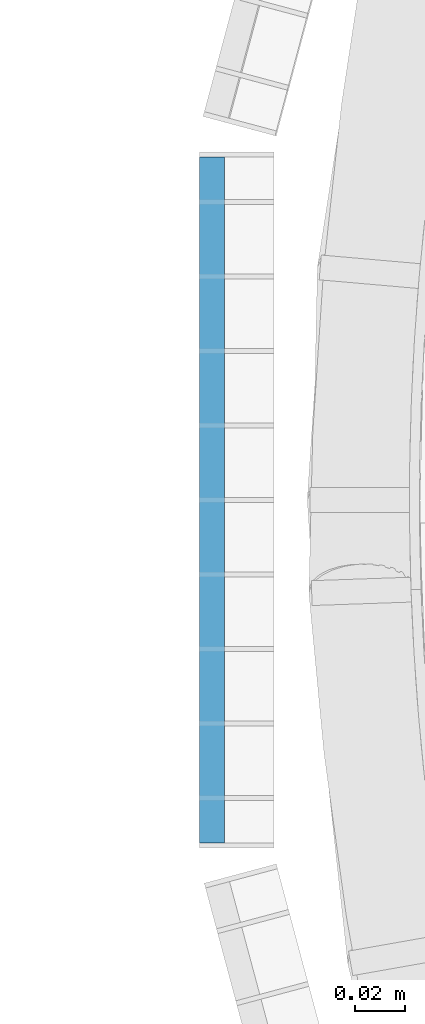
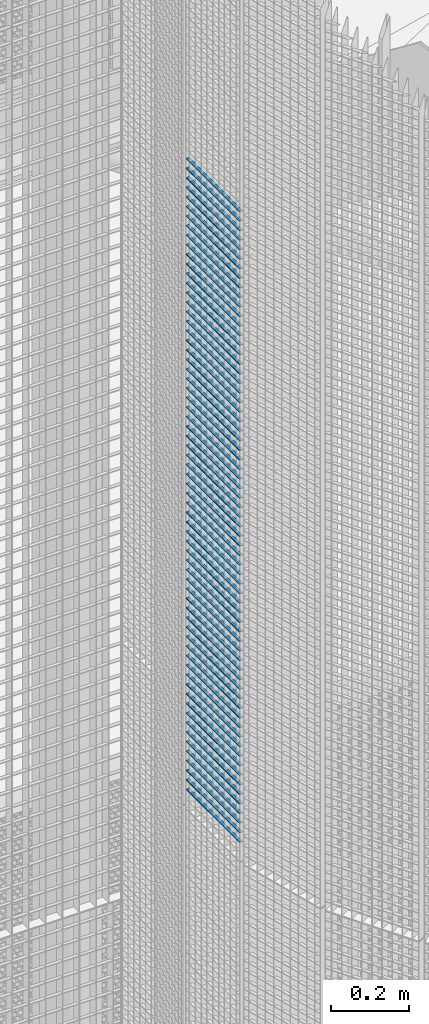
# One storey, part 189 of 1148: 67 beams, 1 element without a shape of its own.
"""IFC2X3 building model written with IfcOpenShell, lengths in millimetres."""

import ifcopenshell
import ifcopenshell.guid

model = None  # the IFC model being written
_history = None  # IfcOwnerHistory: only IFC2X3 demands one
_inside = {}  # id of a spatial element -> (the spatial element, [elements in it])
_under = {}  # id of a project, library or spatial element -> (it, [spatial elements below it])
_declared = {}  # id of a project -> (the project, [libraries it declares])
_typed = {}  # id of a type object -> (the type object, [elements of that type])
_made_of = {}  # id of a material, layer set ... -> (it, [elements and type objects made of it])


def new_model(schema):
    """Start an empty IFC model of exactly this schema.

    Asked for "IFC4X3", IfcOpenShell would pick the latest addendum, in which some entities
    have other attributes; the version numbers below select the first issue.
    IFC2X3 requires an IfcOwnerHistory on every rooted entity: one is made here for all.
    """
    global model, _history
    if schema == "IFC4X3":
        model = ifcopenshell.file(schema_version=(4, 3, 0, 0))
    else:
        model = ifcopenshell.file(schema=schema)
    _inside.clear()
    _under.clear()
    _declared.clear()
    _typed.clear()
    _made_of.clear()
    _history = None
    if model.schema == "IFC2X3":
        org = make("IfcOrganization", Name="unknown")
        user = make(
            "IfcPersonAndOrganization",
            ThePerson=make("IfcPerson", FamilyName="unknown"),
            TheOrganization=org,
        )
        app = make(
            "IfcApplication",
            ApplicationDeveloper=org,
            Version="unknown",
            ApplicationFullName="unknown",
            ApplicationIdentifier="unknown",
        )
        _history = make(
            "IfcOwnerHistory",
            OwningUser=user,
            OwningApplication=app,
            ChangeAction="ADDED",
            CreationDate=0,
        )
    return model


def make(cls, **values):
    """One entity of the class cls with the attributes given. An attribute that is None is left unset."""
    return model.create_entity(
        cls, **{name: value for name, value in values.items() if value is not None}
    )


def rooted(cls, **values):
    """An entity with a GlobalId (a new one), such as an element, a storey or a relation."""
    return make(cls, GlobalId=ifcopenshell.guid.new(), OwnerHistory=_history, **values)


def si_unit(unit_type, name, prefix=None):
    """IfcSIUnit, for example si_unit("LENGTHUNIT", "METRE", prefix="MILLI")."""
    return make("IfcSIUnit", UnitType=unit_type, Prefix=prefix, Name=name)


def assignment(units):
    """IfcUnitAssignment: the units of a project."""
    return None if units is None else make("IfcUnitAssignment", Units=units)


def point(xyz):
    """IfcCartesianPoint."""
    return None if xyz is None else make("IfcCartesianPoint", Coordinates=xyz)


def direction(xyz):
    """IfcDirection."""
    return None if xyz is None else make("IfcDirection", DirectionRatios=xyz)


def frame(location, z_axis=None, x_axis=None):
    """IfcAxis2Placement3D, a coordinate frame: its origin and axes. An axis left out is left unset."""
    return make(
        "IfcAxis2Placement3D",
        Location=point(location),
        Axis=direction(z_axis),
        RefDirection=direction(x_axis),
    )


def frame_2d(location, x_axis=None):
    """IfcAxis2Placement2D, a coordinate frame in the plane: its origin and x axis."""
    return make(
        "IfcAxis2Placement2D", Location=point(location), RefDirection=direction(x_axis)
    )


def origin_with_axes():
    """The frame at (0, 0, 0) with the z axis (0, 0, 1) and the x axis (1, 0, 0) written out."""
    return frame((0.0, 0.0, 0.0), z_axis=(0.0, 0.0, 1.0), x_axis=(1.0, 0.0, 0.0))


def origin_2d_with_axis():
    """The frame at (0, 0) in the plane with the x axis (1, 0) written out."""
    return frame_2d((0.0, 0.0), x_axis=(1.0, 0.0))


def place(relative_to, where):
    """IfcLocalPlacement: puts the frame where relative to a parent placement (None: the world)."""
    return make(
        "IfcLocalPlacement", PlacementRelTo=relative_to, RelativePlacement=where
    )


def context(
    kind, dimensions, precision=None, world=None, true_north=None, identifier=None
):
    """IfcGeometricRepresentationContext, for example the 3D "Model" context."""
    return make(
        "IfcGeometricRepresentationContext",
        ContextIdentifier=identifier,
        ContextType=kind,
        CoordinateSpaceDimension=dimensions,
        Precision=precision,
        WorldCoordinateSystem=world,
        TrueNorth=true_north,
    )


def subcontext(parent, identifier, kind, view, scale=None):
    """IfcGeometricRepresentationSubContext, for example "Body" below "Model"."""
    return make(
        "IfcGeometricRepresentationSubContext",
        ContextIdentifier=identifier,
        ContextType=kind,
        ParentContext=parent,
        TargetScale=scale,
        TargetView=view,
    )


def project(units=None, contexts=None):
    """IfcProject with its units and contexts."""
    return rooted(
        "IfcProject",
        Name="project",
        RepresentationContexts=contexts,
        UnitsInContext=assignment(units),
    )


def spatial(cls, under=None, at=None, **own):
    """A site, building, storey or space (cls), placed at a placement, below another one or the project."""
    s = rooted(cls, ObjectPlacement=at, **own)
    if under is not None:
        _under.setdefault(under.id(), (under, []))[1].append(s)
    return s


def profile(cls, at=None, kind="AREA", **sizes):
    """A parametric profile (cls). Its sizes go by their IFC names, for example OverallWidth=200.0."""
    return make(cls, ProfileType=kind, Position=at, **sizes)


def rectangle(**sizes):
    """IfcRectangleProfileDef."""
    return profile("IfcRectangleProfileDef", **sizes)


def extrude(swept, where, along, depth):
    """IfcExtrudedAreaSolid: the profile swept, set in the frame where, extruded along a direction by depth."""
    return make(
        "IfcExtrudedAreaSolid",
        SweptArea=swept,
        Position=where,
        ExtrudedDirection=direction(along),
        Depth=depth,
    )


def shape(context_of_items, identifier, shape_type, items):
    """IfcShapeRepresentation: the items that make up one representation, for example the "Body"."""
    return make(
        "IfcShapeRepresentation",
        ContextOfItems=context_of_items,
        RepresentationIdentifier=identifier,
        RepresentationType=shape_type,
        Items=items,
    )


def material(Name=None, Category=None):
    """IfcMaterial."""
    return make("IfcMaterial", Name=Name, Category=Category)


def made_of(thing, what):
    """Note that an element or type object is made of a material, layer set ...; save() writes the relation."""
    if what is not None:
        _made_of.setdefault(what.id(), (what, []))[1].append(thing)
    return thing


def type_object(cls, material=None, **own):
    """A type object (cls), such as IfcWallType, which elements share."""
    return made_of(rooted(cls, **own), material)


def element(
    cls,
    number,
    at=None,
    inside=None,
    cuts=None,
    type_object=None,
    material=None,
    context=None,
    identifier="Body",
    shape_type=None,
    held_by="IfcProductDefinitionShape",
    body=None,
    shapes=None,
    **own,
):
    """One element of the class cls, such as IfcWall. Its Tag is "e" and its number.

    at: its placement. inside: the storey or other place that contains it. cuts: it is an
    opening in that element (IfcRelVoidsElement). A single representation is given by context,
    identifier, shape_type and body (its items); several are given by shapes. held_by: the class
    of the entity that holds the representations. save() writes the other relations.
    """
    e = rooted(cls, Tag="e%d" % number, ObjectPlacement=at, **own)
    if body is not None:
        shapes = [shape(context, identifier, shape_type, body)]
    if shapes is not None:
        e.Representation = make(held_by, Representations=shapes)
    if inside is not None:
        _inside.setdefault(inside.id(), (inside, []))[1].append(e)
    if cuts is not None:
        rooted(
            "IfcRelVoidsElement", RelatingBuildingElement=cuts, RelatedOpeningElement=e
        )
    if type_object is not None:
        _typed.setdefault(type_object.id(), (type_object, []))[1].append(e)
    return made_of(e, material)


def aggregate(whole, parts):
    """IfcRelAggregates: a whole, such as a stair, and the parts it consists of."""
    return rooted("IfcRelAggregates", RelatingObject=whole, RelatedObjects=parts)


def save(model, path):
    """Write the relations noted so far, then the file.

    IfcRelAggregates (storeys below a building ...), IfcRelContainedInSpatialStructure (elements
    in a storey), IfcRelDefinesByType, IfcRelAssociatesMaterial and IfcRelDeclares: one each for
    every whole, place, type object, material and project.
    """
    for whole, parts in _under.values():
        aggregate(whole, parts)
    for where, things in _inside.values():
        rooted(
            "IfcRelContainedInSpatialStructure",
            RelatedElements=things,
            RelatingStructure=where,
        )
    for kind, things in _typed.values():
        rooted("IfcRelDefinesByType", RelatedObjects=things, RelatingType=kind)
    for what, things in _made_of.values():
        rooted("IfcRelAssociatesMaterial", RelatedObjects=things, RelatingMaterial=what)
    for by, libraries in _declared.values():
        rooted("IfcRelDeclares", RelatingContext=by, RelatedDefinitions=libraries)
    model.write(path)


model = new_model("IFC2X3")

# Units and contexts
model_context = context("Model", 3, precision=1e-05, world=origin_with_axes())
body_context = subcontext(model_context, "Body", "Model", "MODEL_VIEW")
ifc_project = project(units=[si_unit("LENGTHUNIT", "METRE", prefix="MILLI"), si_unit("AREAUNIT", "SQUARE_METRE"), si_unit("VOLUMEUNIT", "CUBIC_METRE"), si_unit("MASSUNIT", "GRAM", prefix="KILO"), si_unit("TIMEUNIT", "SECOND"), si_unit("PLANEANGLEUNIT", "RADIAN"), si_unit("SOLIDANGLEUNIT", "STERADIAN"), si_unit("THERMODYNAMICTEMPERATUREUNIT", "DEGREE_CELSIUS"), si_unit("LUMINOUSINTENSITYUNIT", "LUMEN")], contexts=[model_context])

# Site, building, storey
site_placement = place(None, origin_with_axes())
site = spatial("IfcSite", under=ifc_project, at=site_placement, Name="Undefined", CompositionType="ELEMENT")
building_placement = place(site_placement, origin_with_axes())
building = spatial("IfcBuilding", under=site, at=building_placement, Name="Undefined", CompositionType="ELEMENT")
storey_placement = place(building_placement, origin_with_axes())
storey = spatial("IfcBuildingStorey", under=building, at=storey_placement, Name="Undefined", CompositionType="ELEMENT", Elevation=0.0)

# Assembly, beams
assembly_placement = place(storey_placement, origin_with_axes())
assembly = element("IfcElementAssembly", 1, at=assembly_placement, inside=storey, Name="BORDURE", AssemblyPlace="NOTDEFINED", PredefinedType="NOTDEFINED")
ifc_material = material(Name="STEEL/S235JR")
beam_type = type_object("IfcBeamType", Name="PL2*10", PredefinedType="NOTDEFINED")
beam_1_placement = place(assembly_placement, frame((-1113.47999999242, 137.996003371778, 14040.0), z_axis=(-1.0, 0.0, 0.0), x_axis=(0.0, -1.0, 0.0)))
beam_1 = element("IfcBeam", 2, at=beam_1_placement, type_object=beam_type, material=ifc_material, Name="ENTRETOISE", context=body_context, shape_type="SweptSolid", body=[
    extrude(rectangle(XDim=2.0, YDim=10.0, at=origin_2d_with_axis()), frame((275.999999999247, 9.09494701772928e-13, 1.53210777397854e-14), z_axis=(-1.0, 0.0, 0.0), x_axis=(0.0, -1.0, 0.0)), (0.0, 0.0, 1.0), 276.0),
])
beam_2_placement = place(assembly_placement, frame((-1113.47999999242, 137.996003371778, 14010.0), z_axis=(-1.0, 0.0, 0.0), x_axis=(0.0, -1.0, 0.0)))
beam_2 = element("IfcBeam", 3, at=beam_2_placement, type_object=beam_type, material=ifc_material, Name="ENTRETOISE", context=body_context, shape_type="SweptSolid", body=[
    extrude(rectangle(XDim=2.0, YDim=10.0, at=origin_2d_with_axis()), frame((275.999999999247, 9.09494701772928e-13, 1.53210777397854e-14), z_axis=(-1.0, 0.0, 0.0), x_axis=(0.0, -1.0, 0.0)), (0.0, 0.0, 1.0), 276.0),
])
beam_3_placement = place(assembly_placement, frame((-1113.47999999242, 137.996003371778, 13980.0), z_axis=(-1.0, 0.0, 0.0), x_axis=(0.0, -1.0, 0.0)))
beam_3 = element("IfcBeam", 4, at=beam_3_placement, type_object=beam_type, material=ifc_material, Name="ENTRETOISE", context=body_context, shape_type="SweptSolid", body=[
    extrude(rectangle(XDim=2.0, YDim=10.0, at=origin_2d_with_axis()), frame((275.999999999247, 9.09494701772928e-13, 1.53210777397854e-14), z_axis=(-1.0, 0.0, 0.0), x_axis=(0.0, -1.0, 0.0)), (0.0, 0.0, 1.0), 276.0),
])
beam_4_placement = place(assembly_placement, frame((-1113.47999999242, 137.996003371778, 13950.0), z_axis=(-1.0, 0.0, 0.0), x_axis=(0.0, -1.0, 0.0)))
beam_4 = element("IfcBeam", 5, at=beam_4_placement, type_object=beam_type, material=ifc_material, Name="ENTRETOISE", context=body_context, shape_type="SweptSolid", body=[
    extrude(rectangle(XDim=2.0, YDim=10.0, at=origin_2d_with_axis()), frame((275.999999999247, 9.09494701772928e-13, 1.53210777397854e-14), z_axis=(-1.0, 0.0, 0.0), x_axis=(0.0, -1.0, 0.0)), (0.0, 0.0, 1.0), 276.0),
])
beam_5_placement = place(assembly_placement, frame((-1113.47999999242, 137.996003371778, 13920.0), z_axis=(-1.0, 0.0, 0.0), x_axis=(0.0, -1.0, 0.0)))
beam_5 = element("IfcBeam", 6, at=beam_5_placement, type_object=beam_type, material=ifc_material, Name="ENTRETOISE", context=body_context, shape_type="SweptSolid", body=[
    extrude(rectangle(XDim=2.0, YDim=10.0, at=origin_2d_with_axis()), frame((275.999999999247, 9.09494701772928e-13, 1.53210777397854e-14), z_axis=(-1.0, 0.0, 0.0), x_axis=(0.0, -1.0, 0.0)), (0.0, 0.0, 1.0), 276.0),
])
beam_6_placement = place(assembly_placement, frame((-1113.47999999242, 137.996003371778, 13890.0), z_axis=(-1.0, 0.0, 0.0), x_axis=(0.0, -1.0, 0.0)))
beam_6 = element("IfcBeam", 7, at=beam_6_placement, type_object=beam_type, material=ifc_material, Name="ENTRETOISE", context=body_context, shape_type="SweptSolid", body=[
    extrude(rectangle(XDim=2.0, YDim=10.0, at=origin_2d_with_axis()), frame((275.999999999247, 9.09494701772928e-13, 1.53210777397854e-14), z_axis=(-1.0, 0.0, 0.0), x_axis=(0.0, -1.0, 0.0)), (0.0, 0.0, 1.0), 276.0),
])
beam_7_placement = place(assembly_placement, frame((-1113.47999999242, 137.996003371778, 13860.0), z_axis=(-1.0, 0.0, 0.0), x_axis=(0.0, -1.0, 0.0)))
beam_7 = element("IfcBeam", 8, at=beam_7_placement, type_object=beam_type, material=ifc_material, Name="ENTRETOISE", context=body_context, shape_type="SweptSolid", body=[
    extrude(rectangle(XDim=2.0, YDim=10.0, at=origin_2d_with_axis()), frame((275.999999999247, 9.09494701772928e-13, 1.53210777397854e-14), z_axis=(-1.0, 0.0, 0.0), x_axis=(0.0, -1.0, 0.0)), (0.0, 0.0, 1.0), 276.0),
])
beam_8_placement = place(assembly_placement, frame((-1113.47999999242, 137.996003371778, 13830.0), z_axis=(-1.0, 0.0, 0.0), x_axis=(0.0, -1.0, 0.0)))
beam_8 = element("IfcBeam", 9, at=beam_8_placement, type_object=beam_type, material=ifc_material, Name="ENTRETOISE", context=body_context, shape_type="SweptSolid", body=[
    extrude(rectangle(XDim=2.0, YDim=10.0, at=origin_2d_with_axis()), frame((275.999999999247, 9.09494701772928e-13, 1.53210777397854e-14), z_axis=(-1.0, 0.0, 0.0), x_axis=(0.0, -1.0, 0.0)), (0.0, 0.0, 1.0), 276.0),
])
beam_9_placement = place(assembly_placement, frame((-1113.47999999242, 137.996003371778, 13800.0), z_axis=(-1.0, 0.0, 0.0), x_axis=(0.0, -1.0, 0.0)))
beam_9 = element("IfcBeam", 10, at=beam_9_placement, type_object=beam_type, material=ifc_material, Name="ENTRETOISE", context=body_context, shape_type="SweptSolid", body=[
    extrude(rectangle(XDim=2.0, YDim=10.0, at=origin_2d_with_axis()), frame((275.999999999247, 9.09494701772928e-13, 1.53210777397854e-14), z_axis=(-1.0, 0.0, 0.0), x_axis=(0.0, -1.0, 0.0)), (0.0, 0.0, 1.0), 276.0),
])
beam_10_placement = place(assembly_placement, frame((-1113.47999999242, 137.996003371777, 13770.0), z_axis=(-1.0, 0.0, 0.0), x_axis=(0.0, -1.0, 0.0)))
beam_10 = element("IfcBeam", 11, at=beam_10_placement, type_object=beam_type, material=ifc_material, Name="ENTRETOISE", context=body_context, shape_type="SweptSolid", body=[
    extrude(rectangle(XDim=2.0, YDim=10.0, at=origin_2d_with_axis()), frame((275.999999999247, 9.09494701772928e-13, 1.53210777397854e-14), z_axis=(-1.0, 0.0, 0.0), x_axis=(0.0, -1.0, 0.0)), (0.0, 0.0, 1.0), 276.0),
])
beam_11_placement = place(assembly_placement, frame((-1113.47999999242, 137.996003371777, 13740.0), z_axis=(-1.0, 0.0, 0.0), x_axis=(0.0, -1.0, 0.0)))
beam_11 = element("IfcBeam", 12, at=beam_11_placement, type_object=beam_type, material=ifc_material, Name="ENTRETOISE", context=body_context, shape_type="SweptSolid", body=[
    extrude(rectangle(XDim=2.0, YDim=10.0, at=origin_2d_with_axis()), frame((275.999999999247, 9.09494701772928e-13, 1.53210777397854e-14), z_axis=(-1.0, 0.0, 0.0), x_axis=(0.0, -1.0, 0.0)), (0.0, 0.0, 1.0), 276.0),
])
beam_12_placement = place(assembly_placement, frame((-1113.47999999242, 137.996003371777, 13710.0), z_axis=(-1.0, 0.0, 0.0), x_axis=(0.0, -1.0, 0.0)))
beam_12 = element("IfcBeam", 13, at=beam_12_placement, type_object=beam_type, material=ifc_material, Name="ENTRETOISE", context=body_context, shape_type="SweptSolid", body=[
    extrude(rectangle(XDim=2.0, YDim=10.0, at=origin_2d_with_axis()), frame((275.999999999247, 9.09494701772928e-13, 1.53210777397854e-14), z_axis=(-1.0, 0.0, 0.0), x_axis=(0.0, -1.0, 0.0)), (0.0, 0.0, 1.0), 276.0),
])
beam_13_placement = place(assembly_placement, frame((-1113.47999999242, 137.996003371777, 13680.0), z_axis=(-1.0, 0.0, 0.0), x_axis=(0.0, -1.0, 0.0)))
beam_13 = element("IfcBeam", 14, at=beam_13_placement, type_object=beam_type, material=ifc_material, Name="ENTRETOISE", context=body_context, shape_type="SweptSolid", body=[
    extrude(rectangle(XDim=2.0, YDim=10.0, at=origin_2d_with_axis()), frame((275.999999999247, 9.09494701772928e-13, 1.53210777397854e-14), z_axis=(-1.0, 0.0, 0.0), x_axis=(0.0, -1.0, 0.0)), (0.0, 0.0, 1.0), 276.0),
])
beam_14_placement = place(assembly_placement, frame((-1113.47999999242, 137.996003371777, 13650.0), z_axis=(-1.0, 0.0, 0.0), x_axis=(0.0, -1.0, 0.0)))
beam_14 = element("IfcBeam", 15, at=beam_14_placement, type_object=beam_type, material=ifc_material, Name="ENTRETOISE", context=body_context, shape_type="SweptSolid", body=[
    extrude(rectangle(XDim=2.0, YDim=10.0, at=origin_2d_with_axis()), frame((275.999999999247, 9.09494701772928e-13, 1.53210777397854e-14), z_axis=(-1.0, 0.0, 0.0), x_axis=(0.0, -1.0, 0.0)), (0.0, 0.0, 1.0), 276.0),
])
beam_15_placement = place(assembly_placement, frame((-1113.47999999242, 137.996003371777, 13620.0), z_axis=(-1.0, 0.0, 0.0), x_axis=(0.0, -1.0, 0.0)))
beam_15 = element("IfcBeam", 16, at=beam_15_placement, type_object=beam_type, material=ifc_material, Name="ENTRETOISE", context=body_context, shape_type="SweptSolid", body=[
    extrude(rectangle(XDim=2.0, YDim=10.0, at=origin_2d_with_axis()), frame((275.999999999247, 9.09494701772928e-13, 1.53210777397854e-14), z_axis=(-1.0, 0.0, 0.0), x_axis=(0.0, -1.0, 0.0)), (0.0, 0.0, 1.0), 276.0),
])
beam_16_placement = place(assembly_placement, frame((-1113.47999999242, 137.996003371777, 13590.0), z_axis=(-1.0, 0.0, 0.0), x_axis=(0.0, -1.0, 0.0)))
beam_16 = element("IfcBeam", 17, at=beam_16_placement, type_object=beam_type, material=ifc_material, Name="ENTRETOISE", context=body_context, shape_type="SweptSolid", body=[
    extrude(rectangle(XDim=2.0, YDim=10.0, at=origin_2d_with_axis()), frame((275.999999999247, 9.09494701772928e-13, 1.53210777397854e-14), z_axis=(-1.0, 0.0, 0.0), x_axis=(0.0, -1.0, 0.0)), (0.0, 0.0, 1.0), 276.0),
])
beam_17_placement = place(assembly_placement, frame((-1113.47999999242, 137.996003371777, 13560.0), z_axis=(-1.0, 0.0, 0.0), x_axis=(0.0, -1.0, 0.0)))
beam_17 = element("IfcBeam", 18, at=beam_17_placement, type_object=beam_type, material=ifc_material, Name="ENTRETOISE", context=body_context, shape_type="SweptSolid", body=[
    extrude(rectangle(XDim=2.0, YDim=10.0, at=origin_2d_with_axis()), frame((275.999999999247, 9.09494701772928e-13, 1.53210777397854e-14), z_axis=(-1.0, 0.0, 0.0), x_axis=(0.0, -1.0, 0.0)), (0.0, 0.0, 1.0), 276.0),
])
beam_18_placement = place(assembly_placement, frame((-1113.47999999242, 137.996003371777, 13530.0), z_axis=(-1.0, 0.0, 0.0), x_axis=(0.0, -1.0, 0.0)))
beam_18 = element("IfcBeam", 19, at=beam_18_placement, type_object=beam_type, material=ifc_material, Name="ENTRETOISE", context=body_context, shape_type="SweptSolid", body=[
    extrude(rectangle(XDim=2.0, YDim=10.0, at=origin_2d_with_axis()), frame((275.999999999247, 9.09494701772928e-13, 1.53210777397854e-14), z_axis=(-1.0, 0.0, 0.0), x_axis=(0.0, -1.0, 0.0)), (0.0, 0.0, 1.0), 276.0),
])
beam_19_placement = place(assembly_placement, frame((-1113.47999999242, 137.996003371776, 13500.0), z_axis=(-1.0, 0.0, 0.0), x_axis=(0.0, -1.0, 0.0)))
beam_19 = element("IfcBeam", 20, at=beam_19_placement, type_object=beam_type, material=ifc_material, Name="ENTRETOISE", context=body_context, shape_type="SweptSolid", body=[
    extrude(rectangle(XDim=2.0, YDim=10.0, at=origin_2d_with_axis()), frame((275.999999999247, 9.09494701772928e-13, 1.53210777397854e-14), z_axis=(-1.0, 0.0, 0.0), x_axis=(0.0, -1.0, 0.0)), (0.0, 0.0, 1.0), 276.0),
])
beam_20_placement = place(assembly_placement, frame((-1113.47999999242, 137.996003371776, 13470.0), z_axis=(-1.0, 0.0, 0.0), x_axis=(0.0, -1.0, 0.0)))
beam_20 = element("IfcBeam", 21, at=beam_20_placement, type_object=beam_type, material=ifc_material, Name="ENTRETOISE", context=body_context, shape_type="SweptSolid", body=[
    extrude(rectangle(XDim=2.0, YDim=10.0, at=origin_2d_with_axis()), frame((275.999999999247, 9.09494701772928e-13, 1.53210777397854e-14), z_axis=(-1.0, 0.0, 0.0), x_axis=(0.0, -1.0, 0.0)), (0.0, 0.0, 1.0), 276.0),
])
beam_21_placement = place(assembly_placement, frame((-1113.47999999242, 137.996003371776, 13440.0), z_axis=(-1.0, 0.0, 0.0), x_axis=(0.0, -1.0, 0.0)))
beam_21 = element("IfcBeam", 22, at=beam_21_placement, type_object=beam_type, material=ifc_material, Name="ENTRETOISE", context=body_context, shape_type="SweptSolid", body=[
    extrude(rectangle(XDim=2.0, YDim=10.0, at=origin_2d_with_axis()), frame((275.999999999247, 9.09494701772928e-13, 1.53210777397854e-14), z_axis=(-1.0, 0.0, 0.0), x_axis=(0.0, -1.0, 0.0)), (0.0, 0.0, 1.0), 276.0),
])
beam_22_placement = place(assembly_placement, frame((-1113.47999999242, 137.996003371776, 13410.0), z_axis=(-1.0, 0.0, 0.0), x_axis=(0.0, -1.0, 0.0)))
beam_22 = element("IfcBeam", 23, at=beam_22_placement, type_object=beam_type, material=ifc_material, Name="ENTRETOISE", context=body_context, shape_type="SweptSolid", body=[
    extrude(rectangle(XDim=2.0, YDim=10.0, at=origin_2d_with_axis()), frame((275.999999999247, 9.09494701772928e-13, 1.53210777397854e-14), z_axis=(-1.0, 0.0, 0.0), x_axis=(0.0, -1.0, 0.0)), (0.0, 0.0, 1.0), 276.0),
])
beam_23_placement = place(assembly_placement, frame((-1113.47999999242, 137.996003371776, 13380.0), z_axis=(-1.0, 0.0, 0.0), x_axis=(0.0, -1.0, 0.0)))
beam_23 = element("IfcBeam", 24, at=beam_23_placement, type_object=beam_type, material=ifc_material, Name="ENTRETOISE", context=body_context, shape_type="SweptSolid", body=[
    extrude(rectangle(XDim=2.0, YDim=10.0, at=origin_2d_with_axis()), frame((275.999999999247, 9.09494701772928e-13, 1.53210777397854e-14), z_axis=(-1.0, 0.0, 0.0), x_axis=(0.0, -1.0, 0.0)), (0.0, 0.0, 1.0), 276.0),
])
beam_24_placement = place(assembly_placement, frame((-1113.47999999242, 137.996003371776, 13350.0), z_axis=(-1.0, 0.0, 0.0), x_axis=(0.0, -1.0, 0.0)))
beam_24 = element("IfcBeam", 25, at=beam_24_placement, type_object=beam_type, material=ifc_material, Name="ENTRETOISE", context=body_context, shape_type="SweptSolid", body=[
    extrude(rectangle(XDim=2.0, YDim=10.0, at=origin_2d_with_axis()), frame((275.999999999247, 9.09494701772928e-13, 1.53210777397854e-14), z_axis=(-1.0, 0.0, 0.0), x_axis=(0.0, -1.0, 0.0)), (0.0, 0.0, 1.0), 276.0),
])
beam_25_placement = place(assembly_placement, frame((-1113.47999999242, 137.996003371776, 13320.0), z_axis=(-1.0, 0.0, 0.0), x_axis=(0.0, -1.0, 0.0)))
beam_25 = element("IfcBeam", 26, at=beam_25_placement, type_object=beam_type, material=ifc_material, Name="ENTRETOISE", context=body_context, shape_type="SweptSolid", body=[
    extrude(rectangle(XDim=2.0, YDim=10.0, at=origin_2d_with_axis()), frame((275.999999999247, 9.09494701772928e-13, 1.53210777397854e-14), z_axis=(-1.0, 0.0, 0.0), x_axis=(0.0, -1.0, 0.0)), (0.0, 0.0, 1.0), 276.0),
])
beam_26_placement = place(assembly_placement, frame((-1113.47999999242, 137.996003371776, 13290.0), z_axis=(-1.0, 0.0, 0.0), x_axis=(0.0, -1.0, 0.0)))
beam_26 = element("IfcBeam", 27, at=beam_26_placement, type_object=beam_type, material=ifc_material, Name="ENTRETOISE", context=body_context, shape_type="SweptSolid", body=[
    extrude(rectangle(XDim=2.0, YDim=10.0, at=origin_2d_with_axis()), frame((275.999999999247, 9.09494701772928e-13, 1.53210777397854e-14), z_axis=(-1.0, 0.0, 0.0), x_axis=(0.0, -1.0, 0.0)), (0.0, 0.0, 1.0), 276.0),
])
beam_27_placement = place(assembly_placement, frame((-1113.47999999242, 137.996003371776, 13260.0), z_axis=(-1.0, 0.0, 0.0), x_axis=(0.0, -1.0, 0.0)))
beam_27 = element("IfcBeam", 28, at=beam_27_placement, type_object=beam_type, material=ifc_material, Name="ENTRETOISE", context=body_context, shape_type="SweptSolid", body=[
    extrude(rectangle(XDim=2.0, YDim=10.0, at=origin_2d_with_axis()), frame((275.999999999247, 9.09494701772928e-13, 1.53210777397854e-14), z_axis=(-1.0, 0.0, 0.0), x_axis=(0.0, -1.0, 0.0)), (0.0, 0.0, 1.0), 276.0),
])
beam_28_placement = place(assembly_placement, frame((-1113.47999999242, 137.996003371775, 13230.0), z_axis=(-1.0, 0.0, 0.0), x_axis=(0.0, -1.0, 0.0)))
beam_28 = element("IfcBeam", 29, at=beam_28_placement, type_object=beam_type, material=ifc_material, Name="ENTRETOISE", context=body_context, shape_type="SweptSolid", body=[
    extrude(rectangle(XDim=2.0, YDim=10.0, at=origin_2d_with_axis()), frame((275.999999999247, 9.09494701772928e-13, 1.53210777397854e-14), z_axis=(-1.0, 0.0, 0.0), x_axis=(0.0, -1.0, 0.0)), (0.0, 0.0, 1.0), 276.0),
])
beam_29_placement = place(assembly_placement, frame((-1113.47999999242, 137.996003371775, 13200.0), z_axis=(-1.0, 0.0, 0.0), x_axis=(0.0, -1.0, 0.0)))
beam_29 = element("IfcBeam", 30, at=beam_29_placement, type_object=beam_type, material=ifc_material, Name="ENTRETOISE", context=body_context, shape_type="SweptSolid", body=[
    extrude(rectangle(XDim=2.0, YDim=10.0, at=origin_2d_with_axis()), frame((275.999999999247, 9.09494701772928e-13, 1.53210777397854e-14), z_axis=(-1.0, 0.0, 0.0), x_axis=(0.0, -1.0, 0.0)), (0.0, 0.0, 1.0), 276.0),
])
beam_30_placement = place(assembly_placement, frame((-1113.47999999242, 137.996003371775, 13170.0), z_axis=(-1.0, 0.0, 0.0), x_axis=(0.0, -1.0, 0.0)))
beam_30 = element("IfcBeam", 31, at=beam_30_placement, type_object=beam_type, material=ifc_material, Name="ENTRETOISE", context=body_context, shape_type="SweptSolid", body=[
    extrude(rectangle(XDim=2.0, YDim=10.0, at=origin_2d_with_axis()), frame((275.999999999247, 9.09494701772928e-13, 1.53210777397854e-14), z_axis=(-1.0, 0.0, 0.0), x_axis=(0.0, -1.0, 0.0)), (0.0, 0.0, 1.0), 276.0),
])
beam_31_placement = place(assembly_placement, frame((-1113.47999999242, 137.996003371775, 13140.0), z_axis=(-1.0, 0.0, 0.0), x_axis=(0.0, -1.0, 0.0)))
beam_31 = element("IfcBeam", 32, at=beam_31_placement, type_object=beam_type, material=ifc_material, Name="ENTRETOISE", context=body_context, shape_type="SweptSolid", body=[
    extrude(rectangle(XDim=2.0, YDim=10.0, at=origin_2d_with_axis()), frame((275.999999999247, 9.09494701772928e-13, 1.53210777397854e-14), z_axis=(-1.0, 0.0, 0.0), x_axis=(0.0, -1.0, 0.0)), (0.0, 0.0, 1.0), 276.0),
])
beam_32_placement = place(assembly_placement, frame((-1113.47999999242, 137.996003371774, 12720.0), z_axis=(-1.0, 0.0, 0.0), x_axis=(0.0, -1.0, 0.0)))
beam_32 = element("IfcBeam", 33, at=beam_32_placement, type_object=beam_type, material=ifc_material, Name="ENTRETOISE", context=body_context, shape_type="SweptSolid", body=[
    extrude(rectangle(XDim=2.0, YDim=10.0, at=origin_2d_with_axis()), frame((275.999999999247, 9.09494701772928e-13, 1.53210777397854e-14), z_axis=(-1.0, 0.0, 0.0), x_axis=(0.0, -1.0, 0.0)), (0.0, 0.0, 1.0), 276.0),
])
beam_33_placement = place(assembly_placement, frame((-1113.47999999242, 137.996003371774, 12690.0), z_axis=(-1.0, 0.0, 0.0), x_axis=(0.0, -1.0, 0.0)))
beam_33 = element("IfcBeam", 34, at=beam_33_placement, type_object=beam_type, material=ifc_material, Name="ENTRETOISE", context=body_context, shape_type="SweptSolid", body=[
    extrude(rectangle(XDim=2.0, YDim=10.0, at=origin_2d_with_axis()), frame((275.999999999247, 9.09494701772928e-13, 1.53210777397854e-14), z_axis=(-1.0, 0.0, 0.0), x_axis=(0.0, -1.0, 0.0)), (0.0, 0.0, 1.0), 276.0),
])
beam_34_placement = place(assembly_placement, frame((-1113.47999999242, 137.996003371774, 12750.0), z_axis=(-1.0, 0.0, 0.0), x_axis=(0.0, -1.0, 0.0)))
beam_34 = element("IfcBeam", 35, at=beam_34_placement, type_object=beam_type, material=ifc_material, Name="ENTRETOISE", context=body_context, shape_type="SweptSolid", body=[
    extrude(rectangle(XDim=2.0, YDim=10.0, at=origin_2d_with_axis()), frame((275.999999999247, 9.09494701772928e-13, 1.53210777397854e-14), z_axis=(-1.0, 0.0, 0.0), x_axis=(0.0, -1.0, 0.0)), (0.0, 0.0, 1.0), 276.0),
])
beam_35_placement = place(assembly_placement, frame((-1113.47999999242, 137.996003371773, 12660.0), z_axis=(-1.0, 0.0, 0.0), x_axis=(0.0, -1.0, 0.0)))
beam_35 = element("IfcBeam", 36, at=beam_35_placement, type_object=beam_type, material=ifc_material, Name="ENTRETOISE", context=body_context, shape_type="SweptSolid", body=[
    extrude(rectangle(XDim=2.0, YDim=10.0, at=origin_2d_with_axis()), frame((275.999999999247, 9.09494701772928e-13, 1.53210777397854e-14), z_axis=(-1.0, 0.0, 0.0), x_axis=(0.0, -1.0, 0.0)), (0.0, 0.0, 1.0), 276.0),
])
beam_36_placement = place(assembly_placement, frame((-1113.47999999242, 137.996003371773, 12630.0), z_axis=(-1.0, 0.0, 0.0), x_axis=(0.0, -1.0, 0.0)))
beam_36 = element("IfcBeam", 37, at=beam_36_placement, type_object=beam_type, material=ifc_material, Name="ENTRETOISE", context=body_context, shape_type="SweptSolid", body=[
    extrude(rectangle(XDim=2.0, YDim=10.0, at=origin_2d_with_axis()), frame((275.999999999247, 9.09494701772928e-13, 1.53210777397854e-14), z_axis=(-1.0, 0.0, 0.0), x_axis=(0.0, -1.0, 0.0)), (0.0, 0.0, 1.0), 276.0),
])
beam_37_placement = place(assembly_placement, frame((-1113.47999999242, 137.996003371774, 12780.0), z_axis=(-1.0, 0.0, 0.0), x_axis=(0.0, -1.0, 0.0)))
beam_37 = element("IfcBeam", 38, at=beam_37_placement, type_object=beam_type, material=ifc_material, Name="ENTRETOISE", context=body_context, shape_type="SweptSolid", body=[
    extrude(rectangle(XDim=2.0, YDim=10.0, at=origin_2d_with_axis()), frame((275.999999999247, 9.09494701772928e-13, 1.53210777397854e-14), z_axis=(-1.0, 0.0, 0.0), x_axis=(0.0, -1.0, 0.0)), (0.0, 0.0, 1.0), 276.0),
])
beam_38_placement = place(assembly_placement, frame((-1113.47999999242, 137.996003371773, 12600.0), z_axis=(-1.0, 0.0, 0.0), x_axis=(0.0, -1.0, 0.0)))
beam_38 = element("IfcBeam", 39, at=beam_38_placement, type_object=beam_type, material=ifc_material, Name="ENTRETOISE", context=body_context, shape_type="SweptSolid", body=[
    extrude(rectangle(XDim=2.0, YDim=10.0, at=origin_2d_with_axis()), frame((275.999999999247, 9.09494701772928e-13, 1.53210777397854e-14), z_axis=(-1.0, 0.0, 0.0), x_axis=(0.0, -1.0, 0.0)), (0.0, 0.0, 1.0), 276.0),
])
beam_39_placement = place(assembly_placement, frame((-1113.47999999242, 137.996003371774, 12810.0), z_axis=(-1.0, 0.0, 0.0), x_axis=(0.0, -1.0, 0.0)))
beam_39 = element("IfcBeam", 40, at=beam_39_placement, type_object=beam_type, material=ifc_material, Name="ENTRETOISE", context=body_context, shape_type="SweptSolid", body=[
    extrude(rectangle(XDim=2.0, YDim=10.0, at=origin_2d_with_axis()), frame((275.999999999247, 9.09494701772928e-13, 1.53210777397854e-14), z_axis=(-1.0, 0.0, 0.0), x_axis=(0.0, -1.0, 0.0)), (0.0, 0.0, 1.0), 276.0),
])
beam_40_placement = place(assembly_placement, frame((-1113.47999999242, 137.996003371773, 12570.0), z_axis=(-1.0, 0.0, 0.0), x_axis=(0.0, -1.0, 0.0)))
beam_40 = element("IfcBeam", 41, at=beam_40_placement, type_object=beam_type, material=ifc_material, Name="ENTRETOISE", context=body_context, shape_type="SweptSolid", body=[
    extrude(rectangle(XDim=2.0, YDim=10.0, at=origin_2d_with_axis()), frame((275.999999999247, 9.09494701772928e-13, 1.53210777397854e-14), z_axis=(-1.0, 0.0, 0.0), x_axis=(0.0, -1.0, 0.0)), (0.0, 0.0, 1.0), 276.0),
])
beam_41_placement = place(assembly_placement, frame((-1113.47999999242, 137.996003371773, 12540.0), z_axis=(-1.0, 0.0, 0.0), x_axis=(0.0, -1.0, 0.0)))
beam_41 = element("IfcBeam", 42, at=beam_41_placement, type_object=beam_type, material=ifc_material, Name="ENTRETOISE", context=body_context, shape_type="SweptSolid", body=[
    extrude(rectangle(XDim=2.0, YDim=10.0, at=origin_2d_with_axis()), frame((275.999999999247, 9.09494701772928e-13, 1.53210777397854e-14), z_axis=(-1.0, 0.0, 0.0), x_axis=(0.0, -1.0, 0.0)), (0.0, 0.0, 1.0), 276.0),
])
beam_42_placement = place(assembly_placement, frame((-1113.47999999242, 137.996003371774, 12840.0), z_axis=(-1.0, 0.0, 0.0), x_axis=(0.0, -1.0, 0.0)))
beam_42 = element("IfcBeam", 43, at=beam_42_placement, type_object=beam_type, material=ifc_material, Name="ENTRETOISE", context=body_context, shape_type="SweptSolid", body=[
    extrude(rectangle(XDim=2.0, YDim=10.0, at=origin_2d_with_axis()), frame((275.999999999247, 9.09494701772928e-13, 1.53210777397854e-14), z_axis=(-1.0, 0.0, 0.0), x_axis=(0.0, -1.0, 0.0)), (0.0, 0.0, 1.0), 276.0),
])
beam_43_placement = place(assembly_placement, frame((-1113.47999999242, 137.996003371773, 12510.0), z_axis=(-1.0, 0.0, 0.0), x_axis=(0.0, -1.0, 0.0)))
beam_43 = element("IfcBeam", 44, at=beam_43_placement, type_object=beam_type, material=ifc_material, Name="ENTRETOISE", context=body_context, shape_type="SweptSolid", body=[
    extrude(rectangle(XDim=2.0, YDim=10.0, at=origin_2d_with_axis()), frame((275.999999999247, 9.09494701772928e-13, 1.53210777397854e-14), z_axis=(-1.0, 0.0, 0.0), x_axis=(0.0, -1.0, 0.0)), (0.0, 0.0, 1.0), 276.0),
])
beam_44_placement = place(assembly_placement, frame((-1113.47999999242, 137.996003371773, 12480.0), z_axis=(-1.0, 0.0, 0.0), x_axis=(0.0, -1.0, 0.0)))
beam_44 = element("IfcBeam", 45, at=beam_44_placement, type_object=beam_type, material=ifc_material, Name="ENTRETOISE", context=body_context, shape_type="SweptSolid", body=[
    extrude(rectangle(XDim=2.0, YDim=10.0, at=origin_2d_with_axis()), frame((275.999999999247, 9.09494701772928e-13, 1.53210777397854e-14), z_axis=(-1.0, 0.0, 0.0), x_axis=(0.0, -1.0, 0.0)), (0.0, 0.0, 1.0), 276.0),
])
beam_45_placement = place(assembly_placement, frame((-1113.47999999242, 137.996003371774, 12870.0), z_axis=(-1.0, 0.0, 0.0), x_axis=(0.0, -1.0, 0.0)))
beam_45 = element("IfcBeam", 46, at=beam_45_placement, type_object=beam_type, material=ifc_material, Name="ENTRETOISE", context=body_context, shape_type="SweptSolid", body=[
    extrude(rectangle(XDim=2.0, YDim=10.0, at=origin_2d_with_axis()), frame((275.999999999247, 9.09494701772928e-13, 1.53210777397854e-14), z_axis=(-1.0, 0.0, 0.0), x_axis=(0.0, -1.0, 0.0)), (0.0, 0.0, 1.0), 276.0),
])
beam_46_placement = place(assembly_placement, frame((-1113.47999999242, 137.996003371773, 12450.0), z_axis=(-1.0, 0.0, 0.0), x_axis=(0.0, -1.0, 0.0)))
beam_46 = element("IfcBeam", 47, at=beam_46_placement, type_object=beam_type, material=ifc_material, Name="ENTRETOISE", context=body_context, shape_type="SweptSolid", body=[
    extrude(rectangle(XDim=2.0, YDim=10.0, at=origin_2d_with_axis()), frame((275.999999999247, 9.09494701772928e-13, 1.53210777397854e-14), z_axis=(-1.0, 0.0, 0.0), x_axis=(0.0, -1.0, 0.0)), (0.0, 0.0, 1.0), 276.0),
])
beam_47_placement = place(assembly_placement, frame((-1113.47999999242, 137.996003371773, 12420.0), z_axis=(-1.0, 0.0, 0.0), x_axis=(0.0, -1.0, 0.0)))
beam_47 = element("IfcBeam", 48, at=beam_47_placement, type_object=beam_type, material=ifc_material, Name="ENTRETOISE", context=body_context, shape_type="SweptSolid", body=[
    extrude(rectangle(XDim=2.0, YDim=10.0, at=origin_2d_with_axis()), frame((275.999999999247, 9.09494701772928e-13, 1.53210777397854e-14), z_axis=(-1.0, 0.0, 0.0), x_axis=(0.0, -1.0, 0.0)), (0.0, 0.0, 1.0), 276.0),
])
beam_48_placement = place(assembly_placement, frame((-1113.47999999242, 137.996003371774, 12900.0), z_axis=(-1.0, 0.0, 0.0), x_axis=(0.0, -1.0, 0.0)))
beam_48 = element("IfcBeam", 49, at=beam_48_placement, type_object=beam_type, material=ifc_material, Name="ENTRETOISE", context=body_context, shape_type="SweptSolid", body=[
    extrude(rectangle(XDim=2.0, YDim=10.0, at=origin_2d_with_axis()), frame((275.999999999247, 9.09494701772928e-13, 1.53210777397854e-14), z_axis=(-1.0, 0.0, 0.0), x_axis=(0.0, -1.0, 0.0)), (0.0, 0.0, 1.0), 276.0),
])
beam_49_placement = place(assembly_placement, frame((-1113.47999999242, 137.996003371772, 12390.0), z_axis=(-1.0, 0.0, 0.0), x_axis=(0.0, -1.0, 0.0)))
beam_49 = element("IfcBeam", 50, at=beam_49_placement, type_object=beam_type, material=ifc_material, Name="ENTRETOISE", context=body_context, shape_type="SweptSolid", body=[
    extrude(rectangle(XDim=2.0, YDim=10.0, at=origin_2d_with_axis()), frame((275.999999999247, 9.09494701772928e-13, 1.53210777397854e-14), z_axis=(-1.0, 0.0, 0.0), x_axis=(0.0, -1.0, 0.0)), (0.0, 0.0, 1.0), 276.0),
])
beam_50_placement = place(assembly_placement, frame((-1113.47999999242, 137.996003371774, 12930.0), z_axis=(-1.0, 0.0, 0.0), x_axis=(0.0, -1.0, 0.0)))
beam_50 = element("IfcBeam", 51, at=beam_50_placement, type_object=beam_type, material=ifc_material, Name="ENTRETOISE", context=body_context, shape_type="SweptSolid", body=[
    extrude(rectangle(XDim=2.0, YDim=10.0, at=origin_2d_with_axis()), frame((275.999999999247, 9.09494701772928e-13, 1.53210777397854e-14), z_axis=(-1.0, 0.0, 0.0), x_axis=(0.0, -1.0, 0.0)), (0.0, 0.0, 1.0), 276.0),
])
beam_51_placement = place(assembly_placement, frame((-1113.47999999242, 137.996003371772, 12360.0), z_axis=(-1.0, 0.0, 0.0), x_axis=(0.0, -1.0, 0.0)))
beam_51 = element("IfcBeam", 52, at=beam_51_placement, type_object=beam_type, material=ifc_material, Name="ENTRETOISE", context=body_context, shape_type="SweptSolid", body=[
    extrude(rectangle(XDim=2.0, YDim=10.0, at=origin_2d_with_axis()), frame((275.999999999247, 9.09494701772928e-13, 1.53210777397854e-14), z_axis=(-1.0, 0.0, 0.0), x_axis=(0.0, -1.0, 0.0)), (0.0, 0.0, 1.0), 276.0),
])
beam_52_placement = place(assembly_placement, frame((-1113.47999999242, 137.996003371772, 12330.0), z_axis=(-1.0, 0.0, 0.0), x_axis=(0.0, -1.0, 0.0)))
beam_52 = element("IfcBeam", 53, at=beam_52_placement, type_object=beam_type, material=ifc_material, Name="ENTRETOISE", context=body_context, shape_type="SweptSolid", body=[
    extrude(rectangle(XDim=2.0, YDim=10.0, at=origin_2d_with_axis()), frame((275.999999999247, 9.09494701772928e-13, 1.53210777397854e-14), z_axis=(-1.0, 0.0, 0.0), x_axis=(0.0, -1.0, 0.0)), (0.0, 0.0, 1.0), 276.0),
])
beam_53_placement = place(assembly_placement, frame((-1113.47999999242, 137.996003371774, 12960.0), z_axis=(-1.0, 0.0, 0.0), x_axis=(0.0, -1.0, 0.0)))
beam_53 = element("IfcBeam", 54, at=beam_53_placement, type_object=beam_type, material=ifc_material, Name="ENTRETOISE", context=body_context, shape_type="SweptSolid", body=[
    extrude(rectangle(XDim=2.0, YDim=10.0, at=origin_2d_with_axis()), frame((275.999999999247, 9.09494701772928e-13, 1.53210777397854e-14), z_axis=(-1.0, 0.0, 0.0), x_axis=(0.0, -1.0, 0.0)), (0.0, 0.0, 1.0), 276.0),
])
beam_54_placement = place(assembly_placement, frame((-1113.47999999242, 137.996003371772, 12300.0), z_axis=(-1.0, 0.0, 0.0), x_axis=(0.0, -1.0, 0.0)))
beam_54 = element("IfcBeam", 55, at=beam_54_placement, type_object=beam_type, material=ifc_material, Name="ENTRETOISE", context=body_context, shape_type="SweptSolid", body=[
    extrude(rectangle(XDim=2.0, YDim=10.0, at=origin_2d_with_axis()), frame((275.999999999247, 9.09494701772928e-13, 1.53210777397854e-14), z_axis=(-1.0, 0.0, 0.0), x_axis=(0.0, -1.0, 0.0)), (0.0, 0.0, 1.0), 276.0),
])
beam_55_placement = place(assembly_placement, frame((-1113.47999999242, 137.996003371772, 12270.0), z_axis=(-1.0, 0.0, 0.0), x_axis=(0.0, -1.0, 0.0)))
beam_55 = element("IfcBeam", 56, at=beam_55_placement, type_object=beam_type, material=ifc_material, Name="ENTRETOISE", context=body_context, shape_type="SweptSolid", body=[
    extrude(rectangle(XDim=2.0, YDim=10.0, at=origin_2d_with_axis()), frame((275.999999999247, 9.09494701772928e-13, 1.53210777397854e-14), z_axis=(-1.0, 0.0, 0.0), x_axis=(0.0, -1.0, 0.0)), (0.0, 0.0, 1.0), 276.0),
])
beam_56_placement = place(assembly_placement, frame((-1113.47999999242, 137.996003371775, 12990.0), z_axis=(-1.0, 0.0, 0.0), x_axis=(0.0, -1.0, 0.0)))
beam_56 = element("IfcBeam", 57, at=beam_56_placement, type_object=beam_type, material=ifc_material, Name="ENTRETOISE", context=body_context, shape_type="SweptSolid", body=[
    extrude(rectangle(XDim=2.0, YDim=10.0, at=origin_2d_with_axis()), frame((275.999999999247, 9.09494701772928e-13, 1.53210777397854e-14), z_axis=(-1.0, 0.0, 0.0), x_axis=(0.0, -1.0, 0.0)), (0.0, 0.0, 1.0), 276.0),
])
beam_57_placement = place(assembly_placement, frame((-1113.47999999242, 137.996003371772, 12240.0), z_axis=(-1.0, 0.0, 0.0), x_axis=(0.0, -1.0, 0.0)))
beam_57 = element("IfcBeam", 58, at=beam_57_placement, type_object=beam_type, material=ifc_material, Name="ENTRETOISE", context=body_context, shape_type="SweptSolid", body=[
    extrude(rectangle(XDim=2.0, YDim=10.0, at=origin_2d_with_axis()), frame((275.999999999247, 9.09494701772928e-13, 1.53210777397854e-14), z_axis=(-1.0, 0.0, 0.0), x_axis=(0.0, -1.0, 0.0)), (0.0, 0.0, 1.0), 276.0),
])
beam_58_placement = place(assembly_placement, frame((-1113.47999999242, 137.996003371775, 13020.0), z_axis=(-1.0, 0.0, 0.0), x_axis=(0.0, -1.0, 0.0)))
beam_58 = element("IfcBeam", 59, at=beam_58_placement, type_object=beam_type, material=ifc_material, Name="ENTRETOISE", context=body_context, shape_type="SweptSolid", body=[
    extrude(rectangle(XDim=2.0, YDim=10.0, at=origin_2d_with_axis()), frame((275.999999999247, 9.09494701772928e-13, 1.53210777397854e-14), z_axis=(-1.0, 0.0, 0.0), x_axis=(0.0, -1.0, 0.0)), (0.0, 0.0, 1.0), 276.0),
])
beam_59_placement = place(assembly_placement, frame((-1113.47999999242, 137.996003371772, 12210.0), z_axis=(-1.0, 0.0, 0.0), x_axis=(0.0, -1.0, 0.0)))
beam_59 = element("IfcBeam", 60, at=beam_59_placement, type_object=beam_type, material=ifc_material, Name="ENTRETOISE", context=body_context, shape_type="SweptSolid", body=[
    extrude(rectangle(XDim=2.0, YDim=10.0, at=origin_2d_with_axis()), frame((275.999999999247, 9.09494701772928e-13, 1.53210777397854e-14), z_axis=(-1.0, 0.0, 0.0), x_axis=(0.0, -1.0, 0.0)), (0.0, 0.0, 1.0), 276.0),
])
beam_60_placement = place(assembly_placement, frame((-1113.47999999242, 137.996003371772, 12180.0), z_axis=(-1.0, 0.0, 0.0), x_axis=(0.0, -1.0, 0.0)))
beam_60 = element("IfcBeam", 61, at=beam_60_placement, type_object=beam_type, material=ifc_material, Name="ENTRETOISE", context=body_context, shape_type="SweptSolid", body=[
    extrude(rectangle(XDim=2.0, YDim=10.0, at=origin_2d_with_axis()), frame((275.999999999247, 9.09494701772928e-13, 1.53210777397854e-14), z_axis=(-1.0, 0.0, 0.0), x_axis=(0.0, -1.0, 0.0)), (0.0, 0.0, 1.0), 276.0),
])
beam_61_placement = place(assembly_placement, frame((-1113.47999999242, 137.996003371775, 13050.0), z_axis=(-1.0, 0.0, 0.0), x_axis=(0.0, -1.0, 0.0)))
beam_61 = element("IfcBeam", 62, at=beam_61_placement, type_object=beam_type, material=ifc_material, Name="ENTRETOISE", context=body_context, shape_type="SweptSolid", body=[
    extrude(rectangle(XDim=2.0, YDim=10.0, at=origin_2d_with_axis()), frame((275.999999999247, 9.09494701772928e-13, 1.53210777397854e-14), z_axis=(-1.0, 0.0, 0.0), x_axis=(0.0, -1.0, 0.0)), (0.0, 0.0, 1.0), 276.0),
])
beam_62_placement = place(assembly_placement, frame((-1113.47999999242, 137.996003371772, 12150.0), z_axis=(-1.0, 0.0, 0.0), x_axis=(0.0, -1.0, 0.0)))
beam_62 = element("IfcBeam", 63, at=beam_62_placement, type_object=beam_type, material=ifc_material, Name="ENTRETOISE", context=body_context, shape_type="SweptSolid", body=[
    extrude(rectangle(XDim=2.0, YDim=10.0, at=origin_2d_with_axis()), frame((275.999999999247, 9.09494701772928e-13, 1.53210777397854e-14), z_axis=(-1.0, 0.0, 0.0), x_axis=(0.0, -1.0, 0.0)), (0.0, 0.0, 1.0), 276.0),
])
beam_63_placement = place(assembly_placement, frame((-1113.47999999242, 137.996003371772, 12120.0), z_axis=(-1.0, 0.0, 0.0), x_axis=(0.0, -1.0, 0.0)))
beam_63 = element("IfcBeam", 64, at=beam_63_placement, type_object=beam_type, material=ifc_material, Name="ENTRETOISE", context=body_context, shape_type="SweptSolid", body=[
    extrude(rectangle(XDim=2.0, YDim=10.0, at=origin_2d_with_axis()), frame((275.999999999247, 9.09494701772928e-13, 1.53210777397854e-14), z_axis=(-1.0, 0.0, 0.0), x_axis=(0.0, -1.0, 0.0)), (0.0, 0.0, 1.0), 276.0),
])
beam_64_placement = place(assembly_placement, frame((-1113.47999999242, 137.996003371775, 13080.0), z_axis=(-1.0, 0.0, 0.0), x_axis=(0.0, -1.0, 0.0)))
beam_64 = element("IfcBeam", 65, at=beam_64_placement, type_object=beam_type, material=ifc_material, Name="ENTRETOISE", context=body_context, shape_type="SweptSolid", body=[
    extrude(rectangle(XDim=2.0, YDim=10.0, at=origin_2d_with_axis()), frame((275.999999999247, 9.09494701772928e-13, 1.53210777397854e-14), z_axis=(-1.0, 0.0, 0.0), x_axis=(0.0, -1.0, 0.0)), (0.0, 0.0, 1.0), 276.0),
])
beam_65_placement = place(assembly_placement, frame((-1113.47999999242, 137.996003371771, 12090.0), z_axis=(-1.0, 0.0, 0.0), x_axis=(0.0, -1.0, 0.0)))
beam_65 = element("IfcBeam", 66, at=beam_65_placement, type_object=beam_type, material=ifc_material, Name="ENTRETOISE", context=body_context, shape_type="SweptSolid", body=[
    extrude(rectangle(XDim=2.0, YDim=10.0, at=origin_2d_with_axis()), frame((275.999999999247, 9.09494701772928e-13, 1.53210777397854e-14), z_axis=(-1.0, 0.0, 0.0), x_axis=(0.0, -1.0, 0.0)), (0.0, 0.0, 1.0), 276.0),
])
beam_66_placement = place(assembly_placement, frame((-1113.47999999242, 137.996003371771, 12060.0), z_axis=(-1.0, 0.0, 0.0), x_axis=(0.0, -1.0, 0.0)))
beam_66 = element("IfcBeam", 67, at=beam_66_placement, type_object=beam_type, material=ifc_material, Name="ENTRETOISE", context=body_context, shape_type="SweptSolid", body=[
    extrude(rectangle(XDim=2.0, YDim=10.0, at=origin_2d_with_axis()), frame((275.999999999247, 9.09494701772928e-13, 1.53210777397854e-14), z_axis=(-1.0, 0.0, 0.0), x_axis=(0.0, -1.0, 0.0)), (0.0, 0.0, 1.0), 276.0),
])
beam_67_placement = place(assembly_placement, frame((-1113.47999999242, 137.996003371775, 13110.0), z_axis=(-1.0, 0.0, 0.0), x_axis=(0.0, -1.0, 0.0)))
beam_67 = element("IfcBeam", 68, at=beam_67_placement, type_object=beam_type, material=ifc_material, Name="ENTRETOISE", context=body_context, shape_type="SweptSolid", body=[
    extrude(rectangle(XDim=2.0, YDim=10.0, at=origin_2d_with_axis()), frame((275.999999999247, 9.09494701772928e-13, 1.53210777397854e-14), z_axis=(-1.0, 0.0, 0.0), x_axis=(0.0, -1.0, 0.0)), (0.0, 0.0, 1.0), 276.0),
])
aggregate(assembly, [beam_1, beam_2, beam_3, beam_4, beam_5, beam_6, beam_7, beam_8, beam_9, beam_10, beam_11, beam_12, beam_13, beam_14, beam_15, beam_16, beam_17, beam_18, beam_19, beam_20, beam_21, beam_22, beam_23, beam_24, beam_25, beam_26, beam_27, beam_28, beam_29, beam_30, beam_31, beam_32, beam_33, beam_34, beam_35, beam_36, beam_37, beam_38, beam_39, beam_40, beam_41, beam_42, beam_43, beam_44, beam_45, beam_46, beam_47, beam_48, beam_49, beam_50, beam_51, beam_52, beam_53, beam_54, beam_55, beam_56, beam_57, beam_58, beam_59, beam_60, beam_61, beam_62, beam_63, beam_64, beam_65, beam_66, beam_67])

save(model, "model.ifc")
